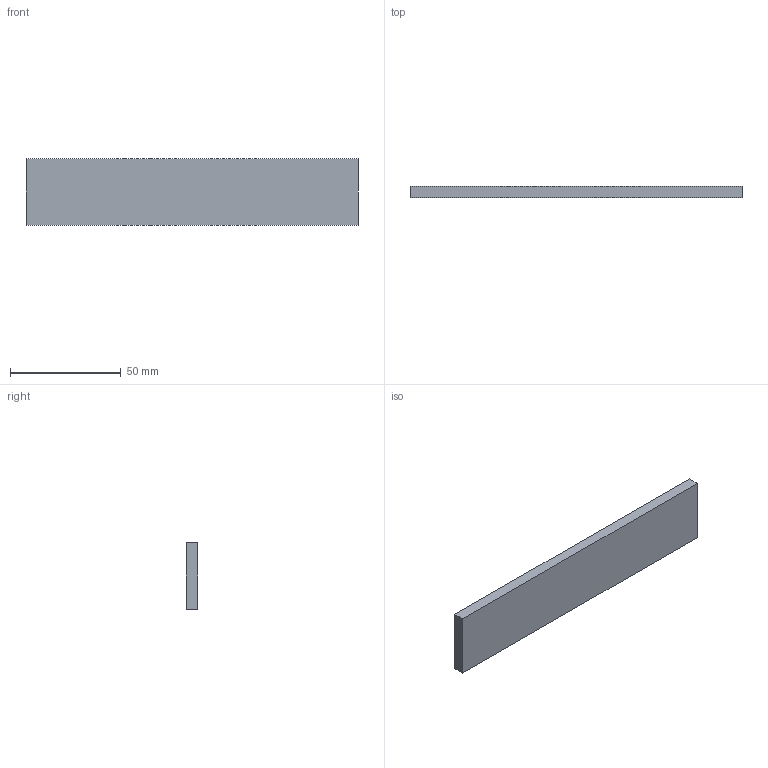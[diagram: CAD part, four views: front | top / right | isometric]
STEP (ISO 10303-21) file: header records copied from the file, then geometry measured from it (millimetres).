
FILE_DESCRIPTION(('Open CASCADE Model'),'2;1');
FILE_NAME('Open CASCADE Shape Model','2026-09-19T12:55:25',('Author'),( 'Open CASCADE'),'Open CASCADE STEP processor 7.9','Open CASCADE 7.9' ,'Unknown');
FILE_SCHEMA(('AUTOMOTIVE_DESIGN { 1 0 10303 214 1 1 1 1 }'));
Length unit declared in the file: millimetre
Products named in the file (1): Open CASCADE STEP translator 7.9 463
Bounding box: 150 x 5 x 30 mm (x, y, z)
Volume: 22500 mm3; surface area: 10800 mm2
Topology: 1 solids, 1 shells, 6 faces, 12 edges, 8 vertices
Faces by surface type: plane 6
Entity records: 322 total; most frequent: CARTESIAN_POINT 51, DIRECTION 50, LINE 36, VECTOR 36, ORIENTED_EDGE 24, PCURVE 24, DEFINITIONAL_REPRESENTATION 24, EDGE_CURVE 12
